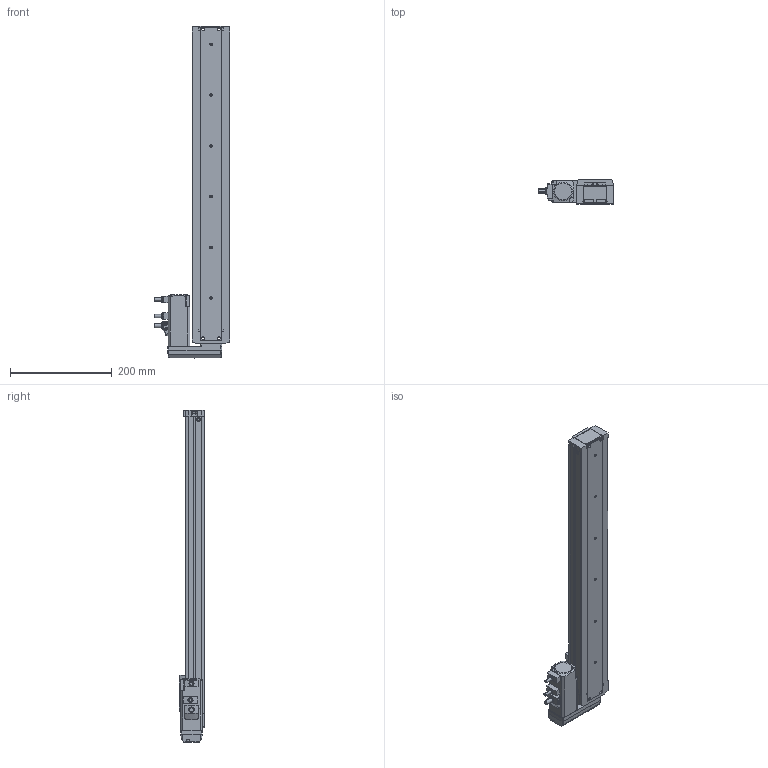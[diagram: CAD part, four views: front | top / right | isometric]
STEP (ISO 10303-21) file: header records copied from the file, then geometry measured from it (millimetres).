
FILE_DESCRIPTION (( 'STEP AP203' ), '1' );
FILE_NAME ('EZSM4RD050AZMK.step', '2015-06-30T17:45:51', ( 'om' ), ( 'Hewlett-Packard Company' ), 'SwSTEP 2.0', 'SolidWorks 2014', '' );
FILE_SCHEMA (( 'CONFIG_CONTROL_DESIGN' ));
Length unit declared in the file: millimetre
Products named in the file (4): EZSM4RD050AZMK; EZSM4RD050AZMK_Motor; EZSM4RD050AZMK_BASE; EZSM4RD050AZMK_Table
Assembly tree (3 placements, depth 2):
  EZSM4RD050AZMK
    EZSM4RD050AZMK_Motor
    EZSM4RD050AZMK_BASE
    EZSM4RD050AZMK_Table
Bounding box: 149 x 50 x 653.9 mm (x, y, z)
Volume: 2008403.4 mm3; surface area: 220323.8 mm2
Topology: 3 solids, 5 shells, 889 faces, 2243 edges, 1439 vertices
Faces by surface type: plane 555, cylinder 254, cone 58, torus 19, sphere 2, bspline 1
Entity records: 27351 total; most frequent: CARTESIAN_POINT 5255, DIRECTION 4528, ORIENTED_EDGE 4470, EDGE_CURVE 2235, VECTOR 1588, LINE 1588, AXIS2_PLACEMENT_3D 1470, VERTEX_POINT 1439
